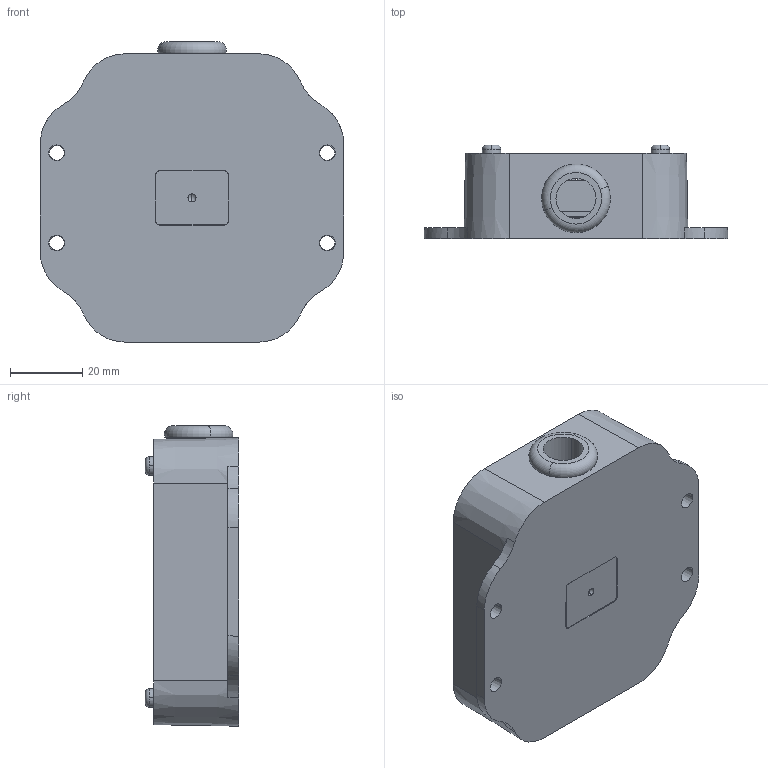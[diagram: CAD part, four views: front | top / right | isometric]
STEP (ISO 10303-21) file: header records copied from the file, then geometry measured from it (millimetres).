
FILE_DESCRIPTION (( 'STEP AP214' ), '1' );
FILE_NAME ('interface_box_sinbon_04082019.STEP', '2019-04-08T17:58:49', ( '' ), ( '' ), 'SwSTEP 2.0', 'SolidWorks 2018', '' );
FILE_SCHEMA (( 'AUTOMOTIVE_DESIGN' ));
Length unit declared in the file: millimetre
Products named in the file (1): interface_box_sinbon_04082019
Bounding box: 84.14 x 25.92 x 83.3 mm (x, y, z)
Surface area: 47559.6 mm2 (no closed solid volume)
Topology: 0 solids, 36 shells, 1203 faces, 3229 edges, 2108 vertices
Faces by surface type: plane 472, cylinder 448, cone 140, bspline 98, torus 39, sphere 6
Entity records: 57421 total; most frequent: CARTESIAN_POINT 14876, ORIENTED_EDGE 6340, DIRECTION 5811, EDGE_CURVE 3209, VERTEX_POINT 2108, AXIS2_PLACEMENT_3D 2055, VECTOR 1701, LINE 1701
